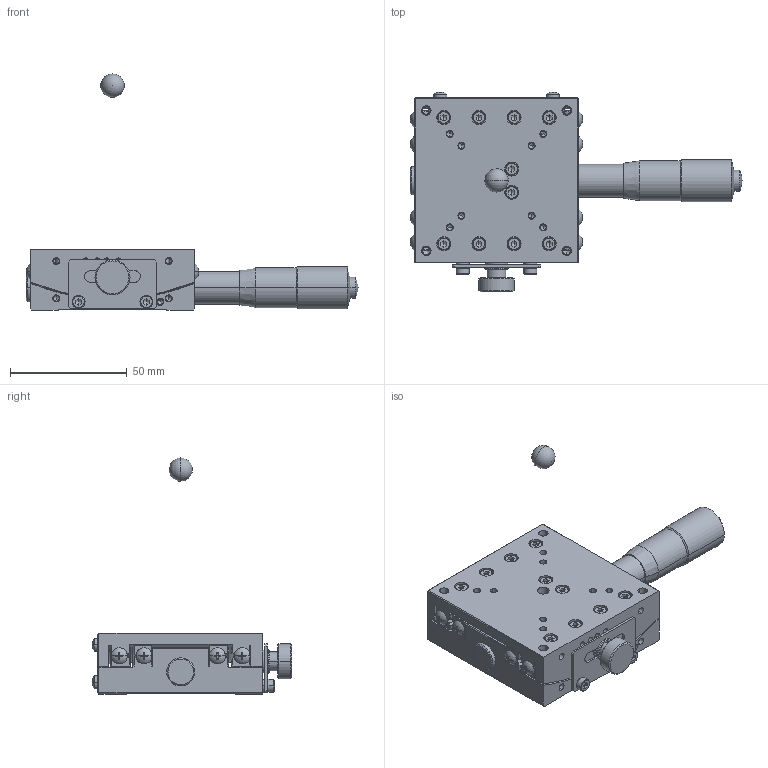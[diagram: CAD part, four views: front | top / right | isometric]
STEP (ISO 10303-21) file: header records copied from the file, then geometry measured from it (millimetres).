
FILE_DESCRIPTION (( 'STEP AP214' ), '1' );
FILE_NAME ('ST07A-C1T-R.STEP', '2007-01-19T02:20:13', ( ' ' ), ( ' ' ), 'SwSTEP 2.0', 'SolidWorks 2006052', '' );
FILE_SCHEMA (( 'AUTOMOTIVE_DESIGN' ));
Length unit declared in the file: millimetre
Products named in the file (6): ST07A-C1T-R; ST07A-C1T-R-Part-1; 002590-1011(3D)-1; MICROMETERHEAD(MHN4-25T)spindle-1; 002590-1130(3D)-1; 002590-1020(3D)-1
Assembly tree (5 placements, depth 2):
  ST07A-C1T-R
    002590-1020(3D)-1
    002590-1011(3D)-1
    002590-1130(3D)-1
    ST07A-C1T-R-Part-1
    MICROMETERHEAD(MHN4-25T)spindle-1
Bounding box: 142 x 85.39 x 101 mm (x, y, z)
Volume: 124665.2 mm3; surface area: 60537 mm2
Topology: 5 solids, 41 shells, 1854 faces, 4317 edges, 2527 vertices
Faces by surface type: plane 770, cylinder 616, cone 436, sphere 32
Entity records: 55454 total; most frequent: CARTESIAN_POINT 13189, DIRECTION 9231, ORIENTED_EDGE 8376, EDGE_CURVE 4188, AXIS2_PLACEMENT_3D 3562, VERTEX_POINT 2524, VECTOR 2107, LINE 2107
